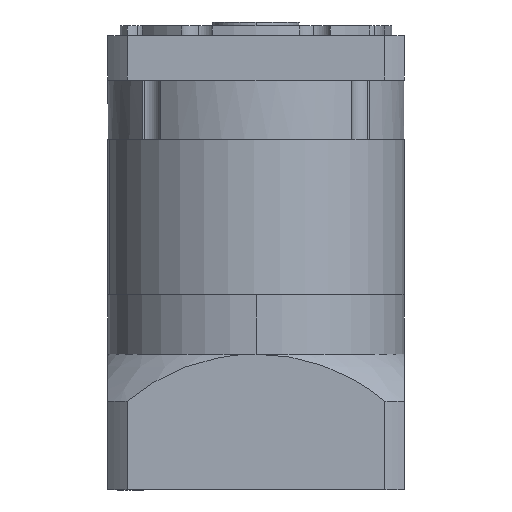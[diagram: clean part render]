
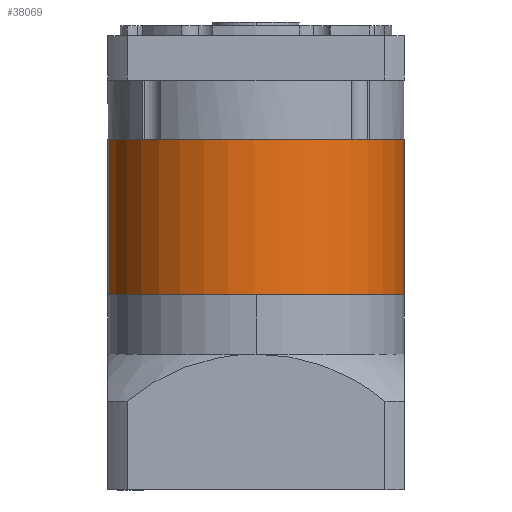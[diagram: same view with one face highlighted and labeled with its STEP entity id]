
A CAD part, left-side view. The second image highlights one B-rep face of the part: STEP entity #38069.
In plain terms, the highlighted cylindrical face has radius 60 mm (diameter 120 mm), a partial arc.
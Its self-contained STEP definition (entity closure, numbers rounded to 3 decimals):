
#473 = EDGE_CURVE ( 'NONE', #29411, #34122, #11295, .T. ) ;
#1473 = DIRECTION ( 'NONE',  ( 0., 0., -1. ) ) ;
#4747 = CARTESIAN_POINT ( 'NONE',  ( 0., 60., 31.5 ) ) ;
#5662 = DIRECTION ( 'NONE',  ( 0., 0., -1. ) ) ;
#7057 = ORIENTED_EDGE ( 'NONE', *, *, #15022, .T. ) ;
#7529 = LINE ( 'NONE', #22659, #8644 ) ;
#8644 = VECTOR ( 'NONE', #1473, 1000. ) ;
#9504 = DIRECTION ( 'NONE',  ( 0., 1., 0. ) ) ;
#9821 = LINE ( 'NONE', #18240, #19319 ) ;
#10561 = CARTESIAN_POINT ( 'NONE',  ( 0., 60., -31.5 ) ) ;
#10882 = CARTESIAN_POINT ( 'NONE',  ( 0., -60., -31.5 ) ) ;
#11295 = CIRCLE ( 'NONE', #32376, 60. ) ;
#11647 = DIRECTION ( 'NONE',  ( 0., 1., 0. ) ) ;
#11687 = DIRECTION ( 'NONE',  ( 0., 0., 1. ) ) ;
#11695 = CARTESIAN_POINT ( 'NONE',  ( 0., 0., -31.5 ) ) ;
#15022 = EDGE_CURVE ( 'NONE', #35447, #30598, #15270, .T. ) ;
#15168 = ORIENTED_EDGE ( 'NONE', *, *, #24042, .F. ) ;
#15270 = CIRCLE ( 'NONE', #28257, 60. ) ;
#17123 = EDGE_LOOP ( 'NONE', ( #7057, #18367, #18293, #15168 ) ) ;
#17589 = DIRECTION ( 'NONE',  ( 0., 1., 0. ) ) ;
#17648 = DIRECTION ( 'NONE',  ( 0., 0., -1. ) ) ;
#17690 = CARTESIAN_POINT ( 'NONE',  ( 0., 0., 31.5 ) ) ;
#18240 = CARTESIAN_POINT ( 'NONE',  ( 0., 60., 31.5 ) ) ;
#18293 = ORIENTED_EDGE ( 'NONE', *, *, #473, .T. ) ;
#18367 = ORIENTED_EDGE ( 'NONE', *, *, #24821, .T. ) ;
#19319 = VECTOR ( 'NONE', #32301, 1000. ) ;
#22659 = CARTESIAN_POINT ( 'NONE',  ( 0., -60., 31.5 ) ) ;
#24042 = EDGE_CURVE ( 'NONE', #35447, #34122, #9821, .T. ) ;
#24821 = EDGE_CURVE ( 'NONE', #30598, #29411, #7529, .T. ) ;
#28257 = AXIS2_PLACEMENT_3D ( 'NONE', #17690, #17648, #17589 ) ;
#28379 = CYLINDRICAL_SURFACE ( 'NONE', #40686, 60. ) ;
#29411 = VERTEX_POINT ( 'NONE', #10882 ) ;
#30598 = VERTEX_POINT ( 'NONE', #34203 ) ;
#30752 = CARTESIAN_POINT ( 'NONE',  ( 0., 0., 31.5 ) ) ;
#32301 = DIRECTION ( 'NONE',  ( 0., 0., -1. ) ) ;
#32376 = AXIS2_PLACEMENT_3D ( 'NONE', #11695, #11687, #11647 ) ;
#34122 = VERTEX_POINT ( 'NONE', #10561 ) ;
#34203 = CARTESIAN_POINT ( 'NONE',  ( 0., -60., 31.5 ) ) ;
#35447 = VERTEX_POINT ( 'NONE', #4747 ) ;
#38069 = ADVANCED_FACE ( 'NONE', ( #38848 ), #28379, .T. ) ;
#38848 = FACE_OUTER_BOUND ( 'NONE', #17123, .T. ) ;
#40686 = AXIS2_PLACEMENT_3D ( 'NONE', #30752, #5662, #9504 ) ;
